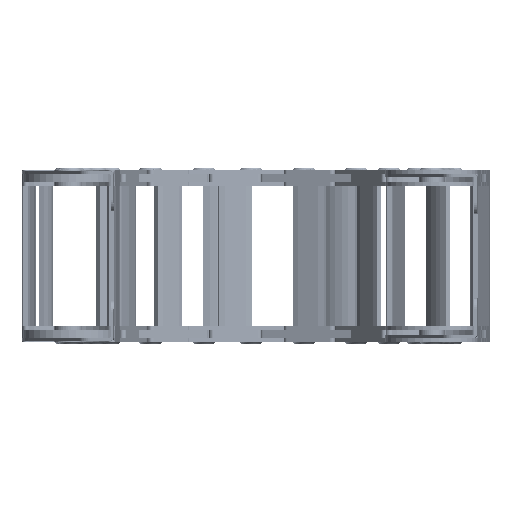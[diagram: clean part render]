
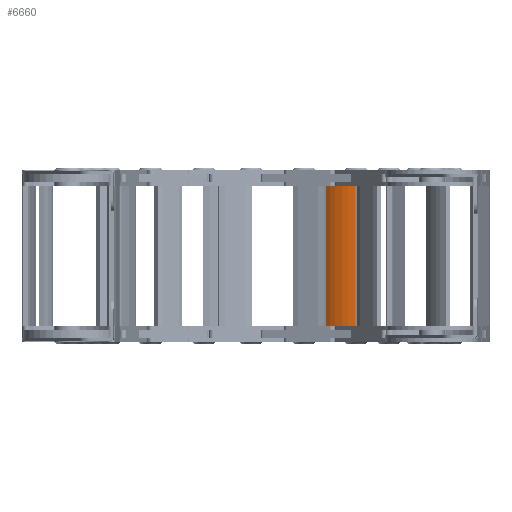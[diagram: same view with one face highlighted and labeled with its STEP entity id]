
A CAD part, left-side view. The second image highlights one B-rep face of the part: STEP entity #6660.
In plain terms, the highlighted cylindrical face has radius 52 mm (diameter 104 mm), a partial arc.
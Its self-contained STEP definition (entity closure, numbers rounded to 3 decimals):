
#6474=CARTESIAN_POINT('',(-14.018,-107.593,-363.3));
#6475=DIRECTION('',(0.,0.,1.));
#6476=DIRECTION('',(-0.202,0.979,0.));
#6477=AXIS2_PLACEMENT_3D('',#6474,#6475,#6476);
#6517=DIRECTION('',(0.,0.,1.));
#6518=VECTOR('',#6517,150.3);
#6519=CARTESIAN_POINT('',(-24.538,-56.668,-363.3));
#6520=LINE('',#6519,#6518);
#6524=DIRECTION('',(0.,0.,-1.));
#6525=VECTOR('',#6524,150.3);
#6526=CARTESIAN_POINT('',(-55.093,-75.705,-213.));
#6527=LINE('',#6526,#6525);
#6552=CARTESIAN_POINT('',(-14.018,-107.593,-213.));
#6553=DIRECTION('',(0.,0.,-1.));
#6554=DIRECTION('',(-0.79,0.613,0.));
#6555=AXIS2_PLACEMENT_3D('',#6552,#6553,#6554);
#6603=CARTESIAN_POINT('',(-24.538,-56.668,-213.));
#6605=VERTEX_POINT('',#6603);
#6606=CARTESIAN_POINT('',(-55.093,-75.705,-213.));
#6607=VERTEX_POINT('',#6606);
#6614=CARTESIAN_POINT('',(-24.538,-56.668,-363.3));
#6615=VERTEX_POINT('',#6614);
#6618=CARTESIAN_POINT('',(-55.093,-75.705,-363.3));
#6619=VERTEX_POINT('',#6618);
#6646=CARTESIAN_POINT('',(-14.018,-107.593,-288.));
#6647=DIRECTION('',(0.,0.,-1.));
#6648=DIRECTION('',(0.849,0.529,0.));
#6649=AXIS2_PLACEMENT_3D('',#6646,#6647,#6648);
#6650=CYLINDRICAL_SURFACE('',#6649,52.);
#6652=ORIENTED_EDGE('',*,*,#6651,.T.);
#6654=ORIENTED_EDGE('',*,*,#6653,.F.);
#6656=ORIENTED_EDGE('',*,*,#6655,.T.);
#6657=ORIENTED_EDGE('',*,*,#6631,.F.);
#6658=EDGE_LOOP('',(#6652,#6654,#6656,#6657));
#6659=FACE_OUTER_BOUND('',#6658,.F.);
#6660=ADVANCED_FACE('',(#6659),#6650,.T.);
#6478=CIRCLE('',#6477,52.);
#6556=CIRCLE('',#6555,52.);
#6631=EDGE_CURVE('',#6615,#6619,#6478,.T.);
#6651=EDGE_CURVE('',#6615,#6605,#6520,.T.);
#6653=EDGE_CURVE('',#6607,#6605,#6556,.T.);
#6655=EDGE_CURVE('',#6607,#6619,#6527,.T.);
